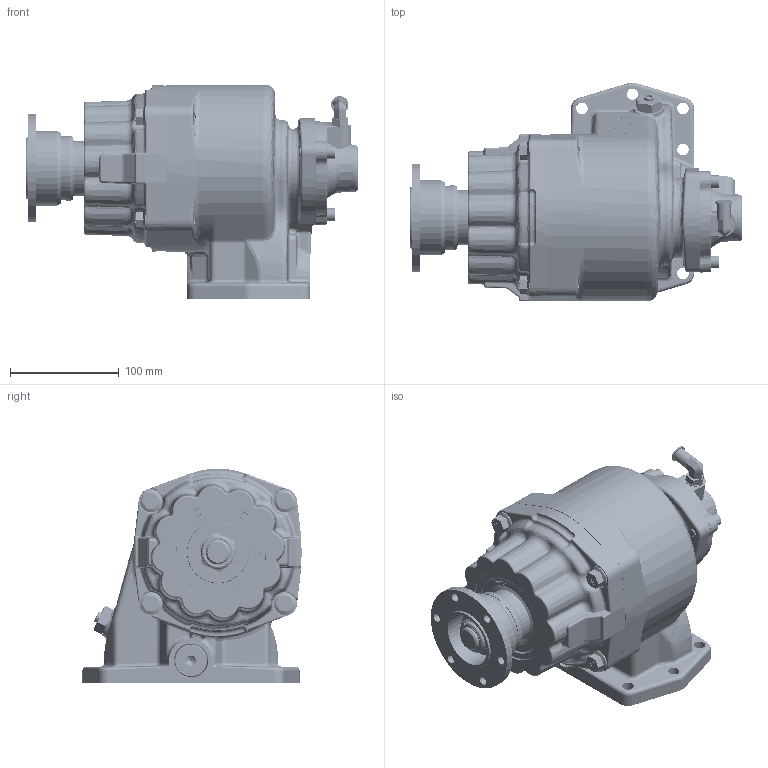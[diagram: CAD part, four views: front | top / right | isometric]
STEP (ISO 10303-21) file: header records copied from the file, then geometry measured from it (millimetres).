
FILE_DESCRIPTION(/* description */ ('PTO ASSEMBLY-878'),/* implementation_level */ '2;1');
FILE_NAME(/* name */ 'D:\CHD\WR-747\Phase 8 & 9\878-3AC\878-3AC.stp',/* time_stamp */ '2024-06-10T18:44:59+05:00',/* author */ ('SP00930886'),/* organization */ (''),/* preprocessor_version */ 'ST-DEVELOPER v18',/* originating_system */ 'Autodesk Inventor 2020',/* authorisation */ '');
FILE_SCHEMA (('AUTOMOTIVE_DESIGN { 1 0 10303 214 3 1 1 }'));
Products named in the file (21): 878-3XV; 1-P-817; 3-P-1068; 22-P-112; 28-P-329; 9-P-99; 378452-7; 378447-6; 379486; 379231; 379242; 21-P-932; 28-P-211; 380486; 379742; 21-P-690; 379564-2; 380563-14; 380076-13; 68-P-51-1; 3-P-1099
Assembly tree (25 placements, depth 2):
  878-3XV
    1-P-817
    3-P-1068
    22-P-112
    28-P-329
    9-P-99
    378452-7
    378447-6  x3
    379486
    379231
    379242
    21-P-932
    380563-14  x4
    28-P-211
    380486
    379742
    21-P-690
    379564-2
    380076-13
    68-P-51-1
    3-P-1099
Bounding box: 305.56 x 201.72 x 197.5 mm (x, y, z)
Volume: 2468808.4 mm3; surface area: 531573.3 mm2
Topology: 26 solids, 26 shells, 8209 faces, 21197 edges, 13231 vertices
Faces by surface type: plane 2974, bspline 2197, cylinder 1943, torus 709, cone 363, sphere 23
Full cylindrical faces by diameter (mm): 0.711 x1, 0.813 x1, 2.184 x2, 2.362 x1, 3.175 x8, 3.962 x1, 4.191 x1, 4.318 x1, 4.699 x2, 4.978 x1, 6.35 x3, 6.401 x3, 6.528 x1, 7.137 x1, 7.798 x5, 7.836 x9, 7.95 x1, 8.204 x6, 8.611 x1, 8.712 x3, 8.75 x3, 9.144 x2, 9.525 x12, 9.728 x1, 10.312 x6, 10.719 x8, 10.871 x1, 11.112 x2, 11.76 x3, 12.548 x1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
Entity records: 307480 total; most frequent: CARTESIAN_POINT 121387, ORIENTED_EDGE 41044, DIRECTION 31807, EDGE_CURVE 20522, VERTEX_POINT 12904, AXIS2_PLACEMENT_3D 10903, LINE 10001, VECTOR 10001
